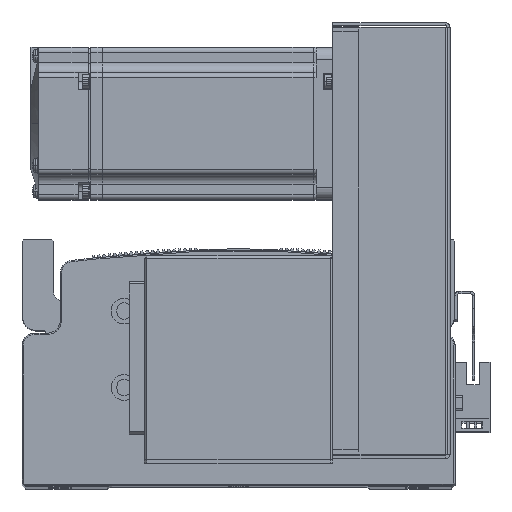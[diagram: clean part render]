
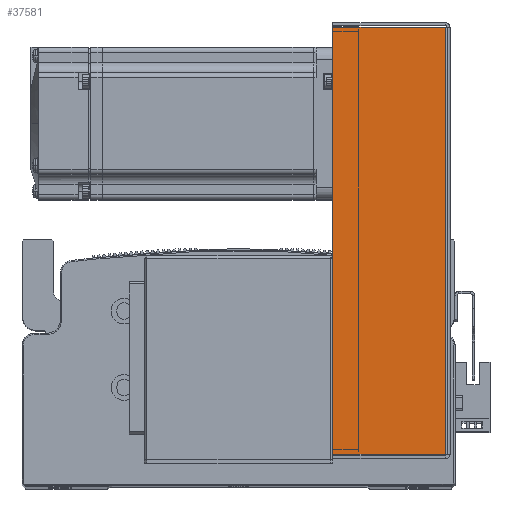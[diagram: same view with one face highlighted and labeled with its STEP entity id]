
A CAD part, top view. The second image highlights one B-rep face of the part: STEP entity #37581.
In plain terms, the highlighted planar face has unit normal (0, 0, 1).
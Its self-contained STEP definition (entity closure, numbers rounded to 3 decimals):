
#4246 = AXIS2_PLACEMENT_3D ( 'NONE', #48256, #48254, #48226 ) ;
#6712 = ORIENTED_EDGE ( 'NONE', *, *, #40929, .F. ) ;
#6733 = ORIENTED_EDGE ( 'NONE', *, *, #40978, .T. ) ;
#6782 = ORIENTED_EDGE ( 'NONE', *, *, #40974, .F. ) ;
#6894 = ORIENTED_EDGE ( 'NONE', *, *, #40893, .T. ) ;
#13115 = CARTESIAN_POINT ( 'NONE',  ( 83.793, 0., 40.5 ) ) ;
#13122 = DIRECTION ( 'NONE',  ( 0., 1., 0. ) ) ;
#13309 = DIRECTION ( 'NONE',  ( 0., 1., 0. ) ) ;
#13338 = CARTESIAN_POINT ( 'NONE',  ( -83.793, 0., 40.5 ) ) ;
#13505 = CARTESIAN_POINT ( 'NONE',  ( 0., 0.737, 40.5 ) ) ;
#13546 = DIRECTION ( 'NONE',  ( -1., 0., 0. ) ) ;
#13556 = CARTESIAN_POINT ( 'NONE',  ( -84.5, 45., 40.5 ) ) ;
#13638 = DIRECTION ( 'NONE',  ( -1., 0., 0. ) ) ;
#18730 = LINE ( 'NONE', #13115, #18734 ) ;
#18734 = VECTOR ( 'NONE', #13122, 1000. ) ;
#18795 = LINE ( 'NONE', #13338, #18800 ) ;
#18800 = VECTOR ( 'NONE', #13309, 1000. ) ;
#18838 = LINE ( 'NONE', #13505, #18863 ) ;
#18857 = VECTOR ( 'NONE', #13638, 1000. ) ;
#18863 = VECTOR ( 'NONE', #13546, 1000. ) ;
#18884 = LINE ( 'NONE', #13556, #18857 ) ;
#33461 = FACE_OUTER_BOUND ( 'NONE', #56123, .T. ) ;
#37581 = ADVANCED_FACE ( 'NONE', ( #33461 ), #48241, .F. ) ;
#40893 = EDGE_CURVE ( 'NONE', #67627, #67614, #18730, .T. ) ;
#40929 = EDGE_CURVE ( 'NONE', #67690, #67634, #18795, .T. ) ;
#40974 = EDGE_CURVE ( 'NONE', #67627, #67690, #18838, .T. ) ;
#40978 = EDGE_CURVE ( 'NONE', #67614, #67634, #18884, .T. ) ;
#48226 = DIRECTION ( 'NONE',  ( -1., 0., 0. ) ) ;
#48241 = PLANE ( 'NONE',  #4246 ) ;
#48254 = DIRECTION ( 'NONE',  ( 0., 0., -1. ) ) ;
#48256 = CARTESIAN_POINT ( 'NONE',  ( 0., 0., 40.5 ) ) ;
#56123 = EDGE_LOOP ( 'NONE', ( #6782, #6894, #6733, #6712 ) ) ;
#67614 = VERTEX_POINT ( 'NONE', #74415 ) ;
#67627 = VERTEX_POINT ( 'NONE', #74442 ) ;
#67634 = VERTEX_POINT ( 'NONE', #74529 ) ;
#67690 = VERTEX_POINT ( 'NONE', #74539 ) ;
#74415 = CARTESIAN_POINT ( 'NONE',  ( 83.793, 45., 40.5 ) ) ;
#74442 = CARTESIAN_POINT ( 'NONE',  ( 83.793, 0.737, 40.5 ) ) ;
#74529 = CARTESIAN_POINT ( 'NONE',  ( -83.793, 45., 40.5 ) ) ;
#74539 = CARTESIAN_POINT ( 'NONE',  ( -83.793, 0.737, 40.5 ) ) ;
